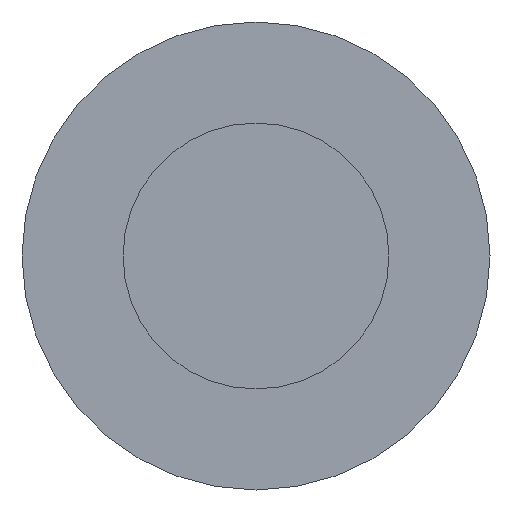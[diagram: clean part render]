
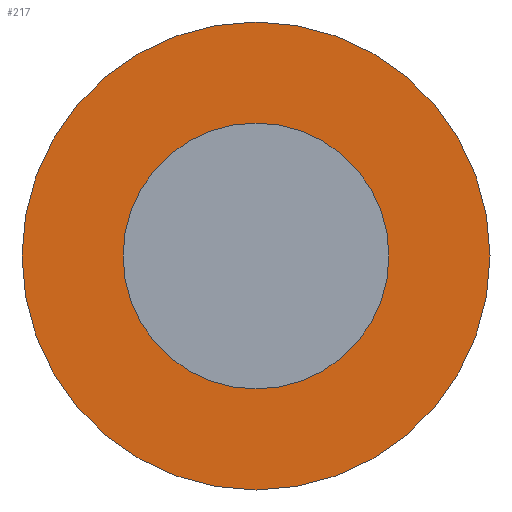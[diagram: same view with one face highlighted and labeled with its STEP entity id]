
A CAD part, front view. The second image highlights one B-rep face of the part: STEP entity #217.
In plain terms, the highlighted planar face has unit normal (0, -1, 0).
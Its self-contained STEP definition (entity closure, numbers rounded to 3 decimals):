
#3 = EDGE_CURVE ( 'NONE', #143, #170, #91, .T. ) ;
#23 = CARTESIAN_POINT ( 'NONE',  ( 0., 5., 0. ) ) ;
#25 = EDGE_CURVE ( 'NONE', #218, #321, #279, .T. ) ;
#29 = EDGE_CURVE ( 'NONE', #170, #143, #234, .T. ) ;
#31 = CIRCLE ( 'NONE', #238, 4.4 ) ;
#41 = ORIENTED_EDGE ( 'NONE', *, *, #29, .T. ) ;
#57 = PLANE ( 'NONE',  #131 ) ;
#76 = AXIS2_PLACEMENT_3D ( 'NONE', #101, #280, #276 ) ;
#83 = CARTESIAN_POINT ( 'NONE',  ( 0., 5., 4.4 ) ) ;
#84 = CARTESIAN_POINT ( 'NONE',  ( 0., 5., -4.4 ) ) ;
#91 = CIRCLE ( 'NONE', #76, 2.5 ) ;
#101 = CARTESIAN_POINT ( 'NONE',  ( 0., 5., 0. ) ) ;
#102 = ORIENTED_EDGE ( 'NONE', *, *, #258, .F. ) ;
#109 = DIRECTION ( 'NONE',  ( 0., 0., 1. ) ) ;
#118 = DIRECTION ( 'NONE',  ( 0., 1., 0. ) ) ;
#123 = DIRECTION ( 'NONE',  ( 0., 0., 1. ) ) ;
#124 = CARTESIAN_POINT ( 'NONE',  ( 0., 5., 2.5 ) ) ;
#129 = CARTESIAN_POINT ( 'NONE',  ( 0., 5., 0. ) ) ;
#131 = AXIS2_PLACEMENT_3D ( 'NONE', #129, #259, #109 ) ;
#143 = VERTEX_POINT ( 'NONE', #330 ) ;
#146 = ORIENTED_EDGE ( 'NONE', *, *, #3, .T. ) ;
#157 = DIRECTION ( 'NONE',  ( 0., 1., 0. ) ) ;
#170 = VERTEX_POINT ( 'NONE', #124 ) ;
#174 = EDGE_LOOP ( 'NONE', ( #146, #41 ) ) ;
#217 = ADVANCED_FACE ( 'NONE', ( #312, #265 ), #57, .F. ) ;
#218 = VERTEX_POINT ( 'NONE', #84 ) ;
#234 = CIRCLE ( 'NONE', #331, 2.5 ) ;
#237 = DIRECTION ( 'NONE',  ( 0., 0., 1. ) ) ;
#238 = AXIS2_PLACEMENT_3D ( 'NONE', #288, #157, #237 ) ;
#244 = ORIENTED_EDGE ( 'NONE', *, *, #25, .F. ) ;
#257 = DIRECTION ( 'NONE',  ( 0., 0., 1. ) ) ;
#258 = EDGE_CURVE ( 'NONE', #321, #218, #31, .T. ) ;
#259 = DIRECTION ( 'NONE',  ( 0., 1., 0. ) ) ;
#262 = AXIS2_PLACEMENT_3D ( 'NONE', #334, #328, #123 ) ;
#265 = FACE_OUTER_BOUND ( 'NONE', #274, .T. ) ;
#274 = EDGE_LOOP ( 'NONE', ( #244, #102 ) ) ;
#276 = DIRECTION ( 'NONE',  ( 0., 0., 1. ) ) ;
#279 = CIRCLE ( 'NONE', #262, 4.4 ) ;
#280 = DIRECTION ( 'NONE',  ( 0., 1., 0. ) ) ;
#288 = CARTESIAN_POINT ( 'NONE',  ( 0., 5., 0. ) ) ;
#312 = FACE_BOUND ( 'NONE', #174, .T. ) ;
#321 = VERTEX_POINT ( 'NONE', #83 ) ;
#328 = DIRECTION ( 'NONE',  ( 0., 1., 0. ) ) ;
#330 = CARTESIAN_POINT ( 'NONE',  ( 0., 5., -2.5 ) ) ;
#331 = AXIS2_PLACEMENT_3D ( 'NONE', #23, #118, #257 ) ;
#334 = CARTESIAN_POINT ( 'NONE',  ( 0., 5., 0. ) ) ;
